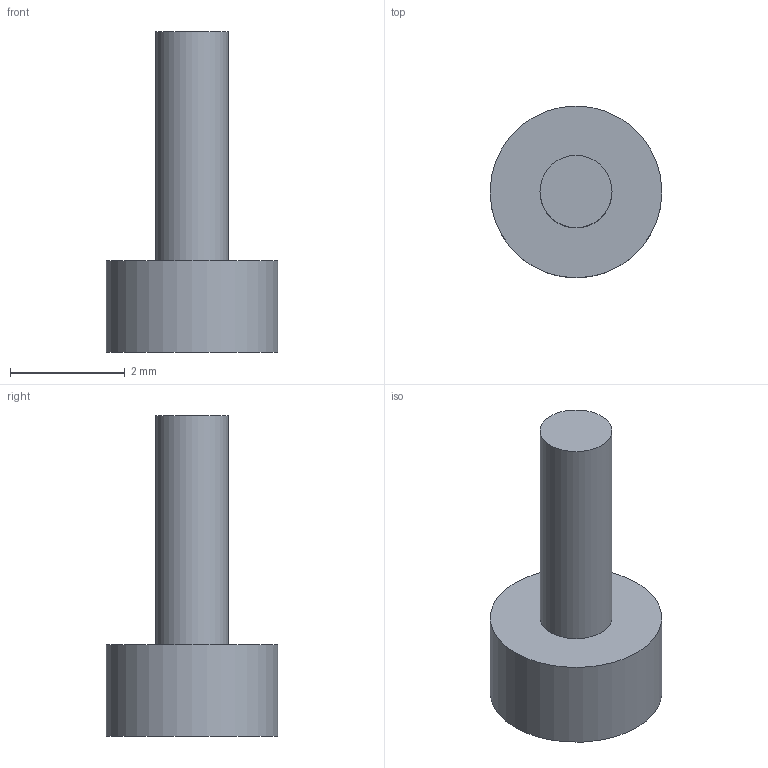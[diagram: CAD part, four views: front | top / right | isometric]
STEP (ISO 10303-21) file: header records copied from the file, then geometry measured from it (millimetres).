
FILE_DESCRIPTION(('Open CASCADE Model'),'2;1');
FILE_NAME('Open CASCADE Shape Model','2026-09-24T17:42:54',('Author'),( 'Open CASCADE'),'Open CASCADE STEP processor 7.8','Open CASCADE 7.8' ,'Unknown');
FILE_SCHEMA(('AUTOMOTIVE_DESIGN { 1 0 10303 214 1 1 1 1 }'));
Length unit declared in the file: millimetre
Products named in the file (1): Open CASCADE STEP translator 7.8 53
Bounding box: 3 x 3 x 5.6 mm (x, y, z)
Volume: 16.3 mm3; surface area: 45.1 mm2
Topology: 1 solids, 1 shells, 5 faces, 6 edges, 4 vertices
Faces by surface type: plane 3, cylinder 2
Full cylindrical faces by diameter (mm): 1.26 x1, 3 x1
Entity records: 192 total; most frequent: DIRECTION 34, CARTESIAN_POINT 28, ORIENTED_EDGE 12, PCURVE 12, DEFINITIONAL_REPRESENTATION 12, AXIS2_PLACEMENT_3D 10, LINE 10, VECTOR 10
